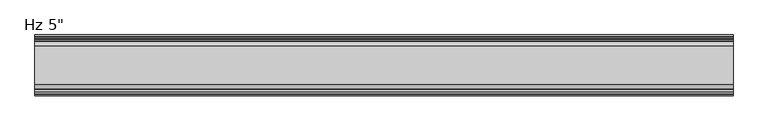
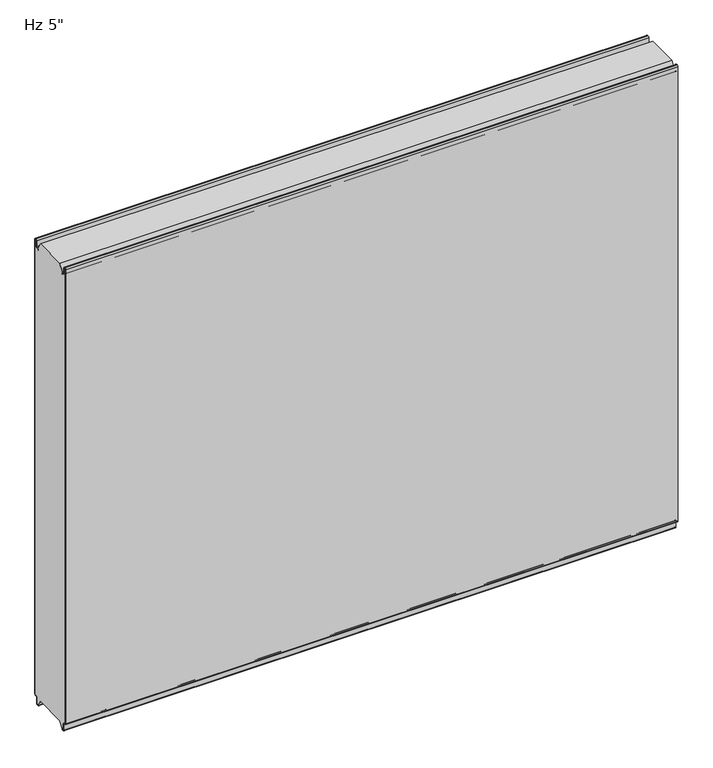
"""IFC4 building model written with IfcOpenShell, lengths in millimetres: plate geometry."""

from ifc_helpers import new_model, si_unit, frame, origin, place, context, project, spatial, polyline, circle_curve, source, transform, mapped, element, save
from ifc_brep_helpers import plane_surface, cylinder_surface, revolved_surface, advanced_brep


def plate_46142d81(model_context):
    return source(origin(), model_context, "Body", "AdvancedBrep", [
        advanced_brep(
        [(-730.0, -124.0227194, 3.8499499), (-730.0, -125.9999935, 5.8272239), (-730.0, -126.0, 1150.8100652), (-730.0, -124.0227315, 1152.7873337), (-730.0, -122.9806329, 1152.7873337), (-730.0, -121.0033643, 1150.8100652), (-730.0, -121.0033643, 1136.6216802), (-730.0, -118.4154878, 1134.0338036), (-730.0, -114.0950697, 1134.0338036), (-730.0, -113.5060762, 1133.4253365), (-730.0, -113.5060762, 1131.0482432), (-730.0, -112.5066023, 1131.0482432), (-730.0, -112.5066023, 1136.4905123), (-730.0, -103.2490865, 1152.525), (-730.0, -23.7509179, 1152.525), (-730.0, -14.4933977, 1136.4905123), (-730.0, -14.4933977, 1131.0482432), (-730.0, -13.4939238, 1131.0482432), (-730.0, -13.4939238, 1133.4253365), (-730.0, -12.9049303, 1134.0338036), (-730.0, -8.5845122, 1134.0338036), (-730.0, -5.9966357, 1136.6216802), (-730.0, -5.9966357, 1150.8100652), (-730.0, -4.0193671, 1152.7873337), (-730.0, -2.9772685, 1152.7873337), (-730.0, -1.0, 1150.8100652), (-730.0, -1.0, 5.8272239), (-730.0, -2.9772806, 3.8499499), (-730.0, -5.2691705, 3.8499499), (-730.0, -9.2464377, -0.1273173), (-730.0, -9.2464377, -15.7237417), (-730.0, -9.8343146, -16.3116186), (-730.0, -12.9058635, -16.3116186), (-730.0, -13.4937402, -15.723742), (-730.0, -13.4937402, -13.3687064), (-730.0, -14.4937402, -13.3687064), (-730.0, -14.4937402, -15.6582851), (-730.0, -23.7509135, 0.0), (-730.0, -103.2490865, 0.0), (-730.0, -112.5062598, -15.6582851), (-730.0, -112.5062598, -13.3687064), (-730.0, -113.5062598, -13.3687064), (-730.0, -113.5062598, -15.723742), (-730.0, -114.0941365, -16.3116186), (-730.0, -117.1656854, -16.3116186), (-730.0, -117.7535623, -15.7237417), (-730.0, -117.7535623, -0.1273173), (-730.0, -121.7308295, 3.8499499), (730.0, -124.0227194, 3.8499499), (730.0, -121.7308295, 3.8499499), (730.0, -117.7535623, -0.1273173), (730.0, -117.7535623, -15.7237417), (730.0, -117.1656854, -16.3116186), (730.0, -114.0941365, -16.3116186), (730.0, -113.5062598, -15.723742), (730.0, -113.5062598, -13.3687064), (730.0, -112.5062598, -13.3687064), (730.0, -112.5062598, -15.6582851), (730.0, -103.2490865, 0.0), (730.0, -23.7509179, 0.0), (730.0, -14.4937402, -15.6582851), (730.0, -14.4937402, -13.3687064), (730.0, -13.4937402, -13.3687064), (730.0, -13.4937402, -15.723742), (730.0, -12.9058635, -16.3116186), (730.0, -9.8343146, -16.3116186), (730.0, -9.2464377, -15.7237417), (730.0, -9.2464377, -0.1273173), (730.0, -5.2691705, 3.8499499), (730.0, -2.9772806, 3.8499499), (730.0, -1.0000065, 5.8272239), (730.0, -1.0, 1150.8100652), (730.0, -2.9772685, 1152.7873337), (730.0, -4.0193671, 1152.7873337), (730.0, -5.9966357, 1150.8100652), (730.0, -5.9966357, 1136.6216802), (730.0, -8.5845122, 1134.0338036), (730.0, -12.9049303, 1134.0338036), (730.0, -13.4939238, 1133.4253365), (730.0, -13.4939238, 1131.0482432), (730.0, -14.4933977, 1131.0482432), (730.0, -14.4933977, 1136.4905123), (730.0, -23.7509135, 1152.525), (730.0, -103.2490865, 1152.525), (730.0, -112.5066023, 1136.4905123), (730.0, -112.5066023, 1131.0482432), (730.0, -113.5060762, 1131.0482432), (730.0, -113.5060762, 1133.4253365), (730.0, -114.0950697, 1134.0338036), (730.0, -118.4154878, 1134.0338036), (730.0, -121.0033643, 1136.6216802), (730.0, -121.0033643, 1150.8100652), (730.0, -122.9806329, 1152.7873337), (730.0, -124.0227315, 1152.7873337), (730.0, -126.0, 1150.8100652), (730.0, -126.0, 5.8272239)],
        [
            (0, 1, circle_curve(frame((-730.0, -124.0227194, 5.8272239), z_axis=(-1.0, 0.0, 0.0), x_axis=(0.0, 0.0, -1.0)), 1.977274)),
            (1, 2),
            (2, 3, circle_curve(frame((-730.0, -124.0227315, 1150.8100652), z_axis=(-1.0, 0.0, 0.0), x_axis=(0.0, 0.0, -1.0)), 1.9772685)),
            (3, 4),
            (4, 5, circle_curve(frame((-730.0, -122.9806329, 1150.8100652), z_axis=(-1.0, 0.0, 0.0), x_axis=(0.0, 0.0, -1.0)), 1.9772685)),
            (5, 6),
            (6, 7, circle_curve(frame((-730.0, -118.4154878, 1136.6216802), z_axis=(1.0, 0.0, 0.0), x_axis=(0.0, 0.0, -1.0)), 2.5878765)),
            (7, 8),
            (8, 9, circle_curve(frame((-730.0, -114.0950697, 1133.4444985), z_axis=(-1.0, 0.0, 0.0), x_axis=(0.0, 0.0, -1.0)), 0.5893051)),
            (9, 10),
            (10, 11),
            (11, 12),
            (12, 13),
            (13, 14),
            (14, 15),
            (15, 16),
            (16, 17),
            (17, 18),
            (18, 19, circle_curve(frame((-730.0, -12.9049303, 1133.4444985), z_axis=(-1.0, 0.0, 0.0), x_axis=(0.0, 1.0, 0.0)), 0.5893051)),
            (19, 20),
            (20, 21, circle_curve(frame((-730.0, -8.5845122, 1136.6216802), z_axis=(1.0, 0.0, 0.0), x_axis=(0.0, 1.0, 0.0)), 2.5878765)),
            (21, 22),
            (22, 23, circle_curve(frame((-730.0, -4.0193671, 1150.8100652), z_axis=(-1.0, 0.0, 0.0), x_axis=(0.0, 1.0, 0.0)), 1.9772685)),
            (23, 24),
            (24, 25, circle_curve(frame((-730.0, -2.9772685, 1150.8100652), z_axis=(-1.0, 0.0, 0.0), x_axis=(0.0, 1.0, 0.0)), 1.9772685)),
            (25, 26),
            (26, 27, circle_curve(frame((-730.0, -2.9772806, 5.8272239), z_axis=(-1.0, 0.0, 0.0), x_axis=(0.0, 1.0, 0.0)), 1.977274)),
            (27, 28),
            (28, 29, circle_curve(frame((-730.0, -5.2691705, -0.1273173), z_axis=(1.0, 0.0, 0.0), x_axis=(0.0, 1.0, 0.0)), 3.9772671)),
            (29, 30),
            (30, 31, circle_curve(frame((-730.0, -9.8343146, -15.7237417), z_axis=(-1.0, 0.0, 0.0), x_axis=(0.0, 1.0, 0.0)), 0.5878769)),
            (31, 32),
            (32, 33, circle_curve(frame((-730.0, -12.9058635, -15.723742), z_axis=(-1.0, 0.0, 0.0), x_axis=(0.0, 1.0, 0.0)), 0.5878766)),
            (33, 34),
            (34, 35),
            (35, 36),
            (36, 37),
            (37, 38),
            (38, 39),
            (39, 40),
            (40, 41),
            (41, 42),
            (42, 43, circle_curve(frame((-730.0, -114.0941365, -15.723742), z_axis=(-1.0, 0.0, 0.0), x_axis=(0.0, 0.0, -1.0)), 0.5878766)),
            (43, 44),
            (44, 45, circle_curve(frame((-730.0, -117.1656854, -15.7237417), z_axis=(-1.0, 0.0, 0.0), x_axis=(0.0, 0.0, -1.0)), 0.5878769)),
            (45, 46),
            (46, 47, circle_curve(frame((-730.0, -121.7308295, -0.1273173), z_axis=(1.0, 0.0, 0.0), x_axis=(0.0, 0.0, -1.0)), 3.9772671)),
            (47, 0),
            (48, 49),
            (49, 50, circle_curve(frame((730.0, -121.7308295, -0.1273173), z_axis=(-1.0, 0.0, 0.0), x_axis=(0.0, 0.0, -1.0)), 3.9772671)),
            (50, 51),
            (51, 52, circle_curve(frame((730.0, -117.1656854, -15.7237417), z_axis=(1.0, 0.0, 0.0), x_axis=(0.0, 0.0, -1.0)), 0.5878769)),
            (52, 53),
            (53, 54, circle_curve(frame((730.0, -114.0941365, -15.723742), z_axis=(1.0, 0.0, 0.0), x_axis=(0.0, 0.0, -1.0)), 0.5878766)),
            (54, 55),
            (55, 56),
            (56, 57),
            (57, 58),
            (58, 59),
            (59, 60),
            (60, 61),
            (61, 62),
            (62, 63),
            (63, 64, circle_curve(frame((730.0, -12.9058635, -15.723742), z_axis=(1.0, 0.0, 0.0), x_axis=(0.0, 1.0, 0.0)), 0.5878766)),
            (64, 65),
            (65, 66, circle_curve(frame((730.0, -9.8343146, -15.7237417), z_axis=(1.0, 0.0, 0.0), x_axis=(0.0, 1.0, 0.0)), 0.5878769)),
            (66, 67),
            (67, 68, circle_curve(frame((730.0, -5.2691705, -0.1273173), z_axis=(-1.0, 0.0, 0.0), x_axis=(0.0, 1.0, 0.0)), 3.9772671)),
            (68, 69),
            (69, 70, circle_curve(frame((730.0, -2.9772806, 5.8272239), z_axis=(1.0, 0.0, 0.0), x_axis=(0.0, 1.0, 0.0)), 1.977274)),
            (70, 71),
            (71, 72, circle_curve(frame((730.0, -2.9772685, 1150.8100652), z_axis=(1.0, 0.0, 0.0), x_axis=(0.0, 1.0, 0.0)), 1.9772685)),
            (72, 73),
            (73, 74, circle_curve(frame((730.0, -4.0193671, 1150.8100652), z_axis=(1.0, 0.0, 0.0), x_axis=(0.0, 1.0, 0.0)), 1.9772685)),
            (74, 75),
            (75, 76, circle_curve(frame((730.0, -8.5845122, 1136.6216802), z_axis=(-1.0, 0.0, 0.0), x_axis=(0.0, 1.0, 0.0)), 2.5878765)),
            (76, 77),
            (77, 78, circle_curve(frame((730.0, -12.9049303, 1133.4444985), z_axis=(1.0, 0.0, 0.0), x_axis=(0.0, 1.0, 0.0)), 0.5893051)),
            (78, 79),
            (79, 80),
            (80, 81),
            (81, 82),
            (82, 83),
            (83, 84),
            (84, 85),
            (85, 86),
            (86, 87),
            (87, 88, circle_curve(frame((730.0, -114.0950697, 1133.4444985), z_axis=(1.0, 0.0, 0.0), x_axis=(0.0, 0.0, -1.0)), 0.5893051)),
            (88, 89),
            (89, 90, circle_curve(frame((730.0, -118.4154878, 1136.6216802), z_axis=(-1.0, 0.0, 0.0), x_axis=(0.0, 0.0, -1.0)), 2.5878765)),
            (90, 91),
            (91, 92, circle_curve(frame((730.0, -122.9806329, 1150.8100652), z_axis=(1.0, 0.0, 0.0), x_axis=(0.0, 0.0, -1.0)), 1.9772685)),
            (92, 93),
            (93, 94, circle_curve(frame((730.0, -124.0227315, 1150.8100652), z_axis=(1.0, 0.0, 0.0), x_axis=(0.0, 0.0, -1.0)), 1.9772685)),
            (94, 95),
            (95, 48, circle_curve(frame((730.0, -124.0227194, 5.8272239), z_axis=(1.0, 0.0, 0.0), x_axis=(0.0, 0.0, -1.0)), 1.977274)),
            (13, 83),
            (82, 14),
            (58, 38),
            (37, 59),
            (47, 49),
            (48, 0),
            (46, 50),
            (45, 51),
            (44, 52),
            (43, 53),
            (42, 54),
            (41, 55),
            (40, 56),
            (39, 57),
            (12, 84),
            (11, 85),
            (10, 86),
            (9, 87),
            (8, 88),
            (7, 89),
            (6, 90),
            (5, 91),
            (4, 92),
            (3, 93),
            (2, 94),
            (1, 95),
            (26, 70),
            (69, 27),
            (25, 71),
            (24, 72),
            (23, 73),
            (22, 74),
            (21, 75),
            (20, 76),
            (19, 77),
            (18, 78),
            (17, 79),
            (16, 80),
            (15, 81),
            (36, 60),
            (35, 61),
            (34, 62),
            (33, 63),
            (32, 64),
            (31, 65),
            (30, 66),
            (29, 67),
            (28, 68),
        ],
        [
            plane_surface(frame((-730.0, -126.0, 576.2625), z_axis=(-1.0, 0.0, 0.0), x_axis=(0.0, -1.0, 0.0))),
            plane_surface(frame((730.0, -126.0, 576.2625), z_axis=(1.0, 0.0, 0.0), x_axis=(0.0, -1.0, 0.0))),
            plane_surface(frame((-730.0, -103.2490865, 1152.525), z_axis=(0.0, 0.0, 1.0), x_axis=(-1.0, 0.0, 0.0))),
            plane_surface(frame((-730.0, -103.2490865, 0.0), z_axis=(0.0, 0.0, -1.0), x_axis=(1.0, 0.0, 0.0))),
            plane_surface(frame((-730.0, -124.0227194, 3.8499499), z_axis=(0.0, 0.0, -1.0), x_axis=(1.0, 0.0, 0.0))),
            revolved_surface(polyline([(730.0, -121.7308295, -4.1045844), (-730.0, -121.7308295, -4.1045844)]), (-730.0, -121.7308295, -0.1273173), (1.0, 0.0, 0.0)),
            plane_surface(frame((-730.0, -117.7535623, -0.1273173), z_axis=(0.0, -1.0, 0.0), x_axis=(1.0, 0.0, 0.0))),
            cylinder_surface(frame((-730.0, -117.1656854, -15.7237417), z_axis=(-1.0, 0.0, 0.0), x_axis=(0.0, 0.0, -1.0)), 0.5878769),
            plane_surface(frame((-730.0, -117.1656854, -16.3116186), z_axis=(0.0, 0.0, -1.0), x_axis=(1.0, 0.0, 0.0))),
            cylinder_surface(frame((-730.0, -114.0941365, -15.723742), z_axis=(-1.0, 0.0, 0.0), x_axis=(0.0, 0.0, -1.0)), 0.5878766),
            plane_surface(frame((-730.0, -113.5062598, -15.723742), z_axis=(0.0, 1.0, 0.0), x_axis=(1.0, 0.0, 0.0))),
            plane_surface(frame((-730.0, -113.5062598, -13.3687064), z_axis=(0.0, 0.0, -1.0), x_axis=(1.0, 0.0, 0.0))),
            plane_surface(frame((-730.0, -112.5062598, -13.3687064), z_axis=(0.0, -1.0, 0.0), x_axis=(1.0, 0.0, 0.0))),
            plane_surface(frame((-730.0, -112.5062598, -15.6582851), z_axis=(0.0, 0.8608169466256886, -0.5089147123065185), x_axis=(1.0, 0.0, 0.0))),
            plane_surface(frame((-730.0, -103.2490865, 1152.525), z_axis=(0.0, -0.8660254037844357, 0.5000000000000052), x_axis=(1.0, 0.0, 0.0))),
            plane_surface(frame((-730.0, -112.5066023, 1136.4905123), z_axis=(0.0, -1.0, 0.0), x_axis=(1.0, 0.0, 0.0))),
            plane_surface(frame((-730.0, -112.5066023, 1131.0482432), z_axis=(0.0, 0.0, 1.0), x_axis=(1.0, 0.0, 0.0))),
            plane_surface(frame((-730.0, -113.5060762, 1131.0482432), z_axis=(0.0, 1.0, 0.0), x_axis=(1.0, 0.0, 0.0))),
            cylinder_surface(frame((-730.0, -114.0950697, 1133.4444985), z_axis=(-1.0, 0.0, 0.0), x_axis=(0.0, 0.0, -1.0)), 0.5893051),
            plane_surface(frame((-730.0, -114.0950697, 1134.0338036), z_axis=(0.0, 0.0, 1.0), x_axis=(1.0, 0.0, 0.0))),
            revolved_surface(polyline([(730.0, -118.4154878, 1134.0338037), (-730.0, -118.4154878, 1134.0338037)]), (-730.0, -118.4154878, 1136.6216802), (1.0, 0.0, 0.0)),
            plane_surface(frame((-730.0, -121.0033643, 1136.6216802), z_axis=(0.0, 1.0, 0.0), x_axis=(1.0, 0.0, 0.0))),
            cylinder_surface(frame((-730.0, -122.9806329, 1150.8100652), z_axis=(-1.0, 0.0, 0.0), x_axis=(0.0, 0.0, -1.0)), 1.9772685),
            plane_surface(frame((-730.0, -122.9806329, 1152.7873337), z_axis=(0.0, 0.0, 1.0), x_axis=(1.0, 0.0, 0.0))),
            cylinder_surface(frame((-730.0, -124.0227315, 1150.8100652), z_axis=(-1.0, 0.0, 0.0), x_axis=(0.0, 0.0, -1.0)), 1.9772685),
            plane_surface(frame((-730.0, -126.0, 1150.8100652), z_axis=(0.0, -1.0, 0.0), x_axis=(1.0, 0.0, 0.0))),
            cylinder_surface(frame((-730.0, -124.0227194, 5.8272239), z_axis=(-1.0, 0.0, 0.0), x_axis=(0.0, 0.0, -1.0)), 1.977274),
            cylinder_surface(frame((-730.0, -2.9772806, 5.8272239), z_axis=(-1.0, 0.0, 0.0), x_axis=(0.0, 1.0, 0.0)), 1.977274),
            plane_surface(frame((-730.0, -1.0, 5.8272239), z_axis=(0.0, 1.0, 0.0), x_axis=(1.0, 0.0, 0.0))),
            cylinder_surface(frame((-730.0, -2.9772685, 1150.8100652), z_axis=(-1.0, 0.0, 0.0), x_axis=(0.0, 1.0, 0.0)), 1.9772685),
            plane_surface(frame((-730.0, -2.9772685, 1152.7873337), z_axis=(0.0, 0.0, 1.0), x_axis=(1.0, 0.0, 0.0))),
            cylinder_surface(frame((-730.0, -4.0193671, 1150.8100652), z_axis=(-1.0, 0.0, 0.0), x_axis=(0.0, 1.0, 0.0)), 1.9772685),
            plane_surface(frame((-730.0, -5.9966357, 1150.8100652), z_axis=(0.0, -1.0, 0.0), x_axis=(1.0, 0.0, 0.0))),
            revolved_surface(polyline([(730.0, -5.996635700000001, 1136.6216802), (-730.0, -5.996635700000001, 1136.6216802)]), (-730.0, -8.5845122, 1136.6216802), (1.0, 0.0, 0.0)),
            plane_surface(frame((-730.0, -8.5845122, 1134.0338036), z_axis=(0.0, 0.0, 1.0), x_axis=(1.0, 0.0, 0.0))),
            cylinder_surface(frame((-730.0, -12.9049303, 1133.4444985), z_axis=(-1.0, 0.0, 0.0), x_axis=(0.0, 1.0, 0.0)), 0.5893051),
            plane_surface(frame((-730.0, -13.4939238, 1133.4253365), z_axis=(0.0, -1.0, 0.0), x_axis=(1.0, 0.0, 0.0))),
            plane_surface(frame((-730.0, -13.4939238, 1131.0482432), z_axis=(0.0, 0.0, 1.0), x_axis=(1.0, 0.0, 0.0))),
            plane_surface(frame((-730.0, -14.4933977, 1131.0482432), z_axis=(0.0, 1.0, 0.0), x_axis=(1.0, 0.0, 0.0))),
            plane_surface(frame((-730.0, -14.4933977, 1136.4905123), z_axis=(0.0, 0.8660254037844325, 0.5000000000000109), x_axis=(1.0, 0.0, 0.0))),
            plane_surface(frame((-730.0, -23.7509135, 0.0), z_axis=(0.0, -0.8608169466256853, -0.5089147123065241), x_axis=(1.0, 0.0, 0.0))),
            plane_surface(frame((-730.0, -14.4937402, -15.6582851), z_axis=(0.0, 1.0, 0.0), x_axis=(1.0, 0.0, 0.0))),
            plane_surface(frame((-730.0, -14.4937402, -13.3687064), z_axis=(0.0, 0.0, -1.0), x_axis=(1.0, 0.0, 0.0))),
            plane_surface(frame((-730.0, -13.4937402, -13.3687064), z_axis=(0.0, -1.0, 0.0), x_axis=(1.0, 0.0, 0.0))),
            cylinder_surface(frame((-730.0, -12.9058635, -15.723742), z_axis=(-1.0, 0.0, 0.0), x_axis=(0.0, 1.0, 0.0)), 0.5878766),
            plane_surface(frame((-730.0, -12.9058635, -16.3116186), z_axis=(0.0, 0.0, -1.0), x_axis=(1.0, 0.0, 0.0))),
            cylinder_surface(frame((-730.0, -9.8343146, -15.7237417), z_axis=(-1.0, 0.0, 0.0), x_axis=(0.0, 1.0, 0.0)), 0.5878769),
            plane_surface(frame((-730.0, -9.2464377, -15.7237417), z_axis=(0.0, 1.0, 0.0), x_axis=(1.0, 0.0, 0.0))),
            revolved_surface(polyline([(730.0, -1.2919034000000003, -0.1273173), (-730.0, -1.2919034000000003, -0.1273173)]), (-730.0, -5.2691705, -0.1273173), (1.0, 0.0, 0.0)),
            plane_surface(frame((-730.0, -5.2691705, 3.8499499), z_axis=(0.0, 0.0, -1.0), x_axis=(1.0, 0.0, 0.0))),
        ],
        [
            (0, [[1, 2, 3, 4, 5, 6, 7, 8, 9, 10, 11, 12, 13, 14, 15, 16, 17, 18, 19, 20, 21, 22, 23, 24, 25, 26, 27, 28, 29, 30, 31, 32, 33, 34, 35, 36, 37, 38, 39, 40, 41, 42, 43, 44, 45, 46, 47, 48]]),
            (1, [[49, 50, 51, 52, 53, 54, 55, 56, 57, 58, 59, 60, 61, 62, 63, 64, 65, 66, 67, 68, 69, 70, 71, 72, 73, 74, 75, 76, 77, 78, 79, 80, 81, 82, 83, 84, 85, 86, 87, 88, 89, 90, 91, 92, 93, 94, 95, 96]]),
            (2, [[97, -83, 98, -14]]),
            (3, [[99, -38, 100, -59]]),
            (4, [[101, -49, 102, -48]]),
            (5, [[103, -50, -101, -47]]),
            (6, [[104, -51, -103, -46]]),
            (7, [[105, -52, -104, -45]]),
            (8, [[106, -53, -105, -44]]),
            (9, [[107, -54, -106, -43]]),
            (10, [[108, -55, -107, -42]]),
            (11, [[109, -56, -108, -41]]),
            (12, [[110, -57, -109, -40]]),
            (13, [[-99, -58, -110, -39]]),
            (14, [[111, -84, -97, -13]]),
            (15, [[112, -85, -111, -12]]),
            (16, [[113, -86, -112, -11]]),
            (17, [[114, -87, -113, -10]]),
            (18, [[115, -88, -114, -9]]),
            (19, [[116, -89, -115, -8]]),
            (20, [[117, -90, -116, -7]]),
            (21, [[118, -91, -117, -6]]),
            (22, [[119, -92, -118, -5]]),
            (23, [[120, -93, -119, -4]]),
            (24, [[121, -94, -120, -3]]),
            (25, [[122, -95, -121, -2]]),
            (26, [[-102, -96, -122, -1]]),
            (27, [[123, -70, 124, -27]]),
            (28, [[125, -71, -123, -26]]),
            (29, [[126, -72, -125, -25]]),
            (30, [[127, -73, -126, -24]]),
            (31, [[128, -74, -127, -23]]),
            (32, [[129, -75, -128, -22]]),
            (33, [[130, -76, -129, -21]]),
            (34, [[131, -77, -130, -20]]),
            (35, [[132, -78, -131, -19]]),
            (36, [[133, -79, -132, -18]]),
            (37, [[134, -80, -133, -17]]),
            (38, [[135, -81, -134, -16]]),
            (39, [[-98, -82, -135, -15]]),
            (40, [[136, -60, -100, -37]]),
            (41, [[137, -61, -136, -36]]),
            (42, [[138, -62, -137, -35]]),
            (43, [[139, -63, -138, -34]]),
            (44, [[140, -64, -139, -33]]),
            (45, [[141, -65, -140, -32]]),
            (46, [[142, -66, -141, -31]]),
            (47, [[143, -67, -142, -30]]),
            (48, [[144, -68, -143, -29]]),
            (49, [[-124, -69, -144, -28]]),
        ],
    ),
        advanced_brep(
        [(-730.0, -2.9776189, 3.8501063), (-730.0, -1.0007088, 5.8270163), (-730.0, -1.0007088, 1150.812837), (-730.0, -2.97659, 1152.7887182), (-730.0, -4.019022, 1152.7887182), (-730.0, -5.9969834, 1150.8107568), (-730.0, -5.9969834, 1136.6215971), (-730.0, -8.5846834, 1134.0338971), (-730.0, -12.9049158, 1134.0338971), (-730.0, -13.4939528, 1133.4253599), (-730.0, -13.4939528, 1131.0482432), (-730.0, -14.4933977, 1131.0482432), (-730.0, -14.4933977, 1133.3929042), (-730.0, -12.9049303, 1135.0338036), (-730.0, -8.5845122, 1135.0338036), (-730.0, -6.9966356, 1136.6216801), (-730.0, -6.9966356, 1150.8100652), (-730.0, -4.0193671, 1153.7873337), (-730.0, -2.9772685, 1153.7873337), (-730.0, 0.0, 1150.8100652), (-730.0, 0.0, 5.8272211), (-730.0, -2.977286, 2.8499526), (-730.0, -5.2691698, 2.8499526), (-730.0, -8.2464384, -0.1273159), (-730.0, -8.2464384, -15.7237419), (-730.0, -9.8343149, -17.3116185), (-730.0, -12.9058636, -17.3116185), (-730.0, -14.4937401, -15.7237419), (-730.0, -14.4937401, -13.3687064), (-730.0, -13.4937365, -13.3687064), (-730.0, -13.4937365, -15.7237374), (-730.0, -12.9058654, -16.3116086), (-730.0, -9.834334, -16.3116086), (-730.0, -9.2464768, -15.7237514), (-730.0, -9.2464768, -0.1272391), (-730.0, -5.2691315, 3.8501063), (730.0, -2.9776189, 3.8501063), (730.0, -5.2691315, 3.8501063), (730.0, -9.2464768, -0.1272391), (730.0, -9.2464768, -15.7237514), (730.0, -9.834334, -16.3116086), (730.0, -12.9058654, -16.3116086), (730.0, -13.4937365, -15.7237374), (730.0, -13.4937365, -13.3687064), (730.0, -14.4937401, -13.3687064), (730.0, -14.4937401, -15.7237419), (730.0, -12.9058636, -17.3116185), (730.0, -9.8343149, -17.3116185), (730.0, -8.2464384, -15.7237419), (730.0, -8.2464384, -0.1273159), (730.0, -5.2691698, 2.8499526), (730.0, -2.977286, 2.8499526), (730.0, -1.75e-05, 5.8272211), (730.0, 0.0, 1150.8100652), (730.0, -2.9772685, 1153.7873337), (730.0, -4.0193671, 1153.7873337), (730.0, -6.9966356, 1150.8100652), (730.0, -6.9966356, 1136.6216801), (730.0, -8.5845122, 1135.0338036), (730.0, -12.9049303, 1135.0338036), (730.0, -14.4933977, 1133.3929042), (730.0, -14.4933977, 1131.0482432), (730.0, -13.4939528, 1131.0482432), (730.0, -13.4939528, 1133.4253599), (730.0, -12.9049158, 1134.0338971), (730.0, -8.5846834, 1134.0338971), (730.0, -5.9969834, 1136.6215971), (730.0, -5.9969834, 1150.8107568), (730.0, -4.019022, 1152.7887182), (730.0, -2.97659, 1152.7887182), (730.0, -1.0007088, 1150.812837), (730.0, -1.0007088, 5.8270163)],
        [
            (0, 1, circle_curve(frame((-730.0, -2.9776189, 5.8270163), z_axis=(1.0, 0.0, 0.0), x_axis=(0.0, 1.0, 0.0)), 1.9769101)),
            (1, 2),
            (2, 3, circle_curve(frame((-730.0, -2.97659, 1150.812837), z_axis=(1.0, 0.0, 0.0), x_axis=(0.0, 1.0, 0.0)), 1.9758812)),
            (3, 4),
            (4, 5, circle_curve(frame((-730.0, -4.019022, 1150.8107568), z_axis=(1.0, 0.0, 0.0), x_axis=(0.0, 1.0, 0.0)), 1.9779614)),
            (5, 6),
            (6, 7, circle_curve(frame((-730.0, -8.5846834, 1136.6215971), z_axis=(-1.0, 0.0, 0.0), x_axis=(0.0, 1.0, 0.0)), 2.5877)),
            (7, 8),
            (8, 9, circle_curve(frame((-730.0, -12.9049158, 1133.4445477), z_axis=(1.0, 0.0, 0.0), x_axis=(0.0, 1.0, 0.0)), 0.5893495)),
            (9, 10),
            (10, 11),
            (11, 12),
            (12, 13, circle_curve(frame((-730.0, -12.9049303, 1133.4444985), z_axis=(-1.0, 0.0, 0.0), x_axis=(0.0, 1.0, 0.0)), 1.5893051)),
            (13, 14),
            (14, 15, circle_curve(frame((-730.0, -8.5845122, 1136.6216801), z_axis=(1.0, 0.0, 0.0), x_axis=(0.0, 1.0, 0.0)), 1.5878765)),
            (15, 16),
            (16, 17, circle_curve(frame((-730.0, -4.0193671, 1150.8100652), z_axis=(-1.0, 0.0, 0.0), x_axis=(0.0, 1.0, 0.0)), 2.9772685)),
            (17, 18),
            (18, 19, circle_curve(frame((-730.0, -2.9772685, 1150.8100652), z_axis=(-1.0, 0.0, 0.0), x_axis=(0.0, 1.0, 0.0)), 2.9772685)),
            (19, 20),
            (20, 21, circle_curve(frame((-730.0, -2.977286, 5.8272211), z_axis=(-1.0, 0.0, 0.0), x_axis=(0.0, 1.0, 0.0)), 2.9772685)),
            (21, 22),
            (22, 23, circle_curve(frame((-730.0, -5.2691698, -0.1273159), z_axis=(1.0, 0.0, 0.0), x_axis=(0.0, 1.0, 0.0)), 2.9772685)),
            (23, 24),
            (24, 25, circle_curve(frame((-730.0, -9.8343149, -15.7237419), z_axis=(-1.0, 0.0, 0.0), x_axis=(0.0, 1.0, 0.0)), 1.5878765)),
            (25, 26),
            (26, 27, circle_curve(frame((-730.0, -12.9058636, -15.7237419), z_axis=(-1.0, 0.0, 0.0), x_axis=(0.0, 1.0, 0.0)), 1.5878765)),
            (27, 28),
            (28, 29),
            (29, 30),
            (30, 31, circle_curve(frame((-730.0, -12.9058654, -15.7237374), z_axis=(1.0, 0.0, 0.0), x_axis=(0.0, 1.0, 0.0)), 0.5878711)),
            (31, 32),
            (32, 33, circle_curve(frame((-730.0, -9.834334, -15.7237514), z_axis=(1.0, 0.0, 0.0), x_axis=(0.0, 1.0, 0.0)), 0.5878572)),
            (33, 34),
            (34, 35, circle_curve(frame((-730.0, -5.2691315, -0.1272391), z_axis=(-1.0, 0.0, 0.0), x_axis=(0.0, 1.0, 0.0)), 3.9773454)),
            (35, 0),
            (36, 37),
            (37, 38, circle_curve(frame((730.0, -5.2691315, -0.1272391), z_axis=(1.0, 0.0, 0.0), x_axis=(0.0, 1.0, 0.0)), 3.9773454)),
            (38, 39),
            (39, 40, circle_curve(frame((730.0, -9.834334, -15.7237514), z_axis=(-1.0, 0.0, 0.0), x_axis=(0.0, 1.0, 0.0)), 0.5878572)),
            (40, 41),
            (41, 42, circle_curve(frame((730.0, -12.9058654, -15.7237374), z_axis=(-1.0, 0.0, 0.0), x_axis=(0.0, 1.0, 0.0)), 0.5878711)),
            (42, 43),
            (43, 44),
            (44, 45),
            (45, 46, circle_curve(frame((730.0, -12.9058636, -15.7237419), z_axis=(1.0, 0.0, 0.0), x_axis=(0.0, 1.0, 0.0)), 1.5878765)),
            (46, 47),
            (47, 48, circle_curve(frame((730.0, -9.8343149, -15.7237419), z_axis=(1.0, 0.0, 0.0), x_axis=(0.0, 1.0, 0.0)), 1.5878765)),
            (48, 49),
            (49, 50, circle_curve(frame((730.0, -5.2691698, -0.1273159), z_axis=(-1.0, 0.0, 0.0), x_axis=(0.0, 1.0, 0.0)), 2.9772685)),
            (50, 51),
            (51, 52, circle_curve(frame((730.0, -2.977286, 5.8272211), z_axis=(1.0, 0.0, 0.0), x_axis=(0.0, 1.0, 0.0)), 2.9772685)),
            (52, 53),
            (53, 54, circle_curve(frame((730.0, -2.9772685, 1150.8100652), z_axis=(1.0, 0.0, 0.0), x_axis=(0.0, 1.0, 0.0)), 2.9772685)),
            (54, 55),
            (55, 56, circle_curve(frame((730.0, -4.0193671, 1150.8100652), z_axis=(1.0, 0.0, 0.0), x_axis=(0.0, 1.0, 0.0)), 2.9772685)),
            (56, 57),
            (57, 58, circle_curve(frame((730.0, -8.5845122, 1136.6216801), z_axis=(-1.0, 0.0, 0.0), x_axis=(0.0, 1.0, 0.0)), 1.5878765)),
            (58, 59),
            (59, 60, circle_curve(frame((730.0, -12.9049303, 1133.4444985), z_axis=(1.0, 0.0, 0.0), x_axis=(0.0, 1.0, 0.0)), 1.5893051)),
            (60, 61),
            (61, 62),
            (62, 63),
            (63, 64, circle_curve(frame((730.0, -12.9049158, 1133.4445477), z_axis=(-1.0, 0.0, 0.0), x_axis=(0.0, 1.0, 0.0)), 0.5893495)),
            (64, 65),
            (65, 66, circle_curve(frame((730.0, -8.5846834, 1136.6215971), z_axis=(1.0, 0.0, 0.0), x_axis=(0.0, 1.0, 0.0)), 2.5877)),
            (66, 67),
            (67, 68, circle_curve(frame((730.0, -4.019022, 1150.8107568), z_axis=(-1.0, 0.0, 0.0), x_axis=(0.0, 1.0, 0.0)), 1.9779614)),
            (68, 69),
            (69, 70, circle_curve(frame((730.0, -2.97659, 1150.812837), z_axis=(-1.0, 0.0, 0.0), x_axis=(0.0, 1.0, 0.0)), 1.9758812)),
            (70, 71),
            (71, 36, circle_curve(frame((730.0, -2.9776189, 5.8270163), z_axis=(-1.0, 0.0, 0.0), x_axis=(0.0, 1.0, 0.0)), 1.9769101)),
            (35, 37),
            (36, 0),
            (34, 38),
            (33, 39),
            (32, 40),
            (31, 41),
            (30, 42),
            (29, 43),
            (28, 44),
            (27, 45),
            (26, 46),
            (25, 47),
            (24, 48),
            (23, 49),
            (22, 50),
            (21, 51),
            (20, 52),
            (19, 53),
            (18, 54),
            (17, 55),
            (16, 56),
            (15, 57),
            (14, 58),
            (13, 59),
            (12, 60),
            (11, 61),
            (10, 62),
            (9, 63),
            (8, 64),
            (7, 65),
            (6, 66),
            (5, 67),
            (4, 68),
            (3, 69),
            (2, 70),
            (1, 71),
        ],
        [
            plane_surface(frame((-730.0, 0.0, 576.2625), z_axis=(-1.0, 0.0, 0.0), x_axis=(0.0, 1.0, 0.0))),
            plane_surface(frame((730.0, 0.0, 576.2625), z_axis=(1.0, 0.0, 0.0), x_axis=(0.0, 1.0, 0.0))),
            plane_surface(frame((-730.0, -2.9776189, 3.8501063), z_axis=(0.0, 0.0, 1.0), x_axis=(1.0, 0.0, 0.0))),
            cylinder_surface(frame((-730.0, -5.2691315, -0.1272391), z_axis=(-1.0, 0.0, 0.0), x_axis=(0.0, 1.0, 0.0)), 3.9773454),
            plane_surface(frame((-730.0, -9.2464768, -0.1272391), z_axis=(0.0, -1.0, 0.0), x_axis=(1.0, 0.0, 0.0))),
            revolved_surface(polyline([(730.0, -9.2464768, -15.7237514), (-730.0, -9.2464768, -15.7237514)]), (-730.0, -9.834334, -15.7237514), (1.0, 0.0, 0.0)),
            plane_surface(frame((-730.0, -9.834334, -16.3116086), z_axis=(0.0, 0.0, 1.0), x_axis=(1.0, 0.0, 0.0))),
            revolved_surface(polyline([(730.0, -12.3179943, -15.7237374), (-730.0, -12.3179943, -15.7237374)]), (-730.0, -12.9058654, -15.7237374), (1.0, 0.0, 0.0)),
            plane_surface(frame((-730.0, -13.4937365, -15.7237374), z_axis=(0.0, 1.0, 0.0), x_axis=(1.0, 0.0, 0.0))),
            plane_surface(frame((-730.0, -13.4937365, -13.3687064), z_axis=(0.0, 0.0, 1.0), x_axis=(1.0, 0.0, 0.0))),
            plane_surface(frame((-730.0, -14.4937401, -13.3687064), z_axis=(0.0, -1.0, 0.0), x_axis=(1.0, 0.0, 0.0))),
            cylinder_surface(frame((-730.0, -12.9058636, -15.7237419), z_axis=(-1.0, 0.0, 0.0), x_axis=(0.0, 1.0, 0.0)), 1.5878765),
            plane_surface(frame((-730.0, -12.9058636, -17.3116185), z_axis=(0.0, 0.0, -1.0), x_axis=(1.0, 0.0, 0.0))),
            cylinder_surface(frame((-730.0, -9.8343149, -15.7237419), z_axis=(-1.0, 0.0, 0.0), x_axis=(0.0, 1.0, 0.0)), 1.5878765),
            plane_surface(frame((-730.0, -8.2464384, -15.7237419), z_axis=(0.0, 1.0, 0.0), x_axis=(1.0, 0.0, 0.0))),
            revolved_surface(polyline([(730.0, -2.2919013, -0.1273159), (-730.0, -2.2919013, -0.1273159)]), (-730.0, -5.2691698, -0.1273159), (1.0, 0.0, 0.0)),
            plane_surface(frame((-730.0, -5.2691698, 2.8499526), z_axis=(0.0, 0.0, -1.0), x_axis=(1.0, 0.0, 0.0))),
            cylinder_surface(frame((-730.0, -2.977286, 5.8272211), z_axis=(-1.0, 0.0, 0.0), x_axis=(0.0, 1.0, 0.0)), 2.9772685),
            plane_surface(frame((-730.0, 0.0, 5.8272211), z_axis=(0.0, 1.0, 0.0), x_axis=(1.0, 0.0, 0.0))),
            cylinder_surface(frame((-730.0, -2.9772685, 1150.8100652), z_axis=(-1.0, 0.0, 0.0), x_axis=(0.0, 1.0, 0.0)), 2.9772685),
            plane_surface(frame((-730.0, -2.9772685, 1153.7873337), z_axis=(0.0, 0.0, 1.0), x_axis=(1.0, 0.0, 0.0))),
            cylinder_surface(frame((-730.0, -4.0193671, 1150.8100652), z_axis=(-1.0, 0.0, 0.0), x_axis=(0.0, 1.0, 0.0)), 2.9772685),
            plane_surface(frame((-730.0, -6.9966356, 1150.8100652), z_axis=(0.0, -1.0, 0.0), x_axis=(1.0, 0.0, 0.0))),
            revolved_surface(polyline([(730.0, -6.996635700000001, 1136.6216801), (-730.0, -6.996635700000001, 1136.6216801)]), (-730.0, -8.5845122, 1136.6216801), (1.0, 0.0, 0.0)),
            plane_surface(frame((-730.0, -8.5845122, 1135.0338036), z_axis=(0.0, 0.0, 1.0), x_axis=(1.0, 0.0, 0.0))),
            cylinder_surface(frame((-730.0, -12.9049303, 1133.4444985), z_axis=(-1.0, 0.0, 0.0), x_axis=(0.0, 1.0, 0.0)), 1.5893051),
            plane_surface(frame((-730.0, -14.4933977, 1133.3929042), z_axis=(0.0, -1.0, 0.0), x_axis=(1.0, 0.0, 0.0))),
            plane_surface(frame((-730.0, -14.4933977, 1131.0482432), z_axis=(0.0, 0.0, -1.0), x_axis=(1.0, 0.0, 0.0))),
            plane_surface(frame((-730.0, -13.4939528, 1131.0482432), z_axis=(0.0, 1.0, 0.0), x_axis=(1.0, 0.0, 0.0))),
            revolved_surface(polyline([(730.0, -12.3155663, 1133.4445477), (-730.0, -12.3155663, 1133.4445477)]), (-730.0, -12.9049158, 1133.4445477), (1.0, 0.0, 0.0)),
            plane_surface(frame((-730.0, -12.9049158, 1134.0338971), z_axis=(0.0, 0.0, -1.0), x_axis=(1.0, 0.0, 0.0))),
            cylinder_surface(frame((-730.0, -8.5846834, 1136.6215971), z_axis=(-1.0, 0.0, 0.0), x_axis=(0.0, 1.0, 0.0)), 2.5877),
            plane_surface(frame((-730.0, -5.9969834, 1136.6215971), z_axis=(0.0, 1.0, 0.0), x_axis=(1.0, 0.0, 0.0))),
            revolved_surface(polyline([(730.0, -2.0410606, 1150.8107568), (-730.0, -2.0410606, 1150.8107568)]), (-730.0, -4.019022, 1150.8107568), (1.0, 0.0, 0.0)),
            plane_surface(frame((-730.0, -4.019022, 1152.7887182), z_axis=(0.0, 0.0, -1.0), x_axis=(1.0, 0.0, 0.0))),
            revolved_surface(polyline([(730.0, -1.0007088, 1150.812837), (-730.0, -1.0007088, 1150.812837)]), (-730.0, -2.97659, 1150.812837), (1.0, 0.0, 0.0)),
            plane_surface(frame((-730.0, -1.0007088, 1150.812837), z_axis=(0.0, -1.0, 0.0), x_axis=(1.0, 0.0, 0.0))),
            revolved_surface(polyline([(730.0, -1.0007088, 5.8270163), (-730.0, -1.0007088, 5.8270163)]), (-730.0, -2.9776189, 5.8270163), (1.0, 0.0, 0.0)),
        ],
        [
            (0, [[1, 2, 3, 4, 5, 6, 7, 8, 9, 10, 11, 12, 13, 14, 15, 16, 17, 18, 19, 20, 21, 22, 23, 24, 25, 26, 27, 28, 29, 30, 31, 32, 33, 34, 35, 36]]),
            (1, [[37, 38, 39, 40, 41, 42, 43, 44, 45, 46, 47, 48, 49, 50, 51, 52, 53, 54, 55, 56, 57, 58, 59, 60, 61, 62, 63, 64, 65, 66, 67, 68, 69, 70, 71, 72]]),
            (2, [[73, -37, 74, -36]]),
            (3, [[75, -38, -73, -35]]),
            (4, [[76, -39, -75, -34]]),
            (5, [[77, -40, -76, -33]]),
            (6, [[78, -41, -77, -32]]),
            (7, [[79, -42, -78, -31]]),
            (8, [[80, -43, -79, -30]]),
            (9, [[81, -44, -80, -29]]),
            (10, [[82, -45, -81, -28]]),
            (11, [[83, -46, -82, -27]]),
            (12, [[84, -47, -83, -26]]),
            (13, [[85, -48, -84, -25]]),
            (14, [[86, -49, -85, -24]]),
            (15, [[87, -50, -86, -23]]),
            (16, [[88, -51, -87, -22]]),
            (17, [[89, -52, -88, -21]]),
            (18, [[90, -53, -89, -20]]),
            (19, [[91, -54, -90, -19]]),
            (20, [[92, -55, -91, -18]]),
            (21, [[93, -56, -92, -17]]),
            (22, [[94, -57, -93, -16]]),
            (23, [[95, -58, -94, -15]]),
            (24, [[96, -59, -95, -14]]),
            (25, [[97, -60, -96, -13]]),
            (26, [[98, -61, -97, -12]]),
            (27, [[99, -62, -98, -11]]),
            (28, [[100, -63, -99, -10]]),
            (29, [[101, -64, -100, -9]]),
            (30, [[102, -65, -101, -8]]),
            (31, [[103, -66, -102, -7]]),
            (32, [[104, -67, -103, -6]]),
            (33, [[105, -68, -104, -5]]),
            (34, [[106, -69, -105, -4]]),
            (35, [[107, -70, -106, -3]]),
            (36, [[108, -71, -107, -2]]),
            (37, [[-74, -72, -108, -1]]),
        ],
    ),
        advanced_brep(
        [(-730.0, -124.0223811, 3.8501063), (-730.0, -121.7308685, 3.8501063), (-730.0, -117.7535232, -0.1272391), (-730.0, -117.7535232, -15.7237514), (-730.0, -117.165666, -16.3116086), (-730.0, -114.0941346, -16.3116086), (-730.0, -113.5062635, -15.7237374), (-730.0, -113.5062635, -13.3687064), (-730.0, -112.5062599, -13.3687064), (-730.0, -112.5062599, -15.7237419), (-730.0, -114.0941364, -17.3116185), (-730.0, -117.1656851, -17.3116185), (-730.0, -118.7535616, -15.7237419), (-730.0, -118.7535616, -0.1273159), (-730.0, -121.7308302, 2.8499526), (-730.0, -124.022714, 2.8499526), (-730.0, -126.9999825, 5.8272211), (-730.0, -127.0, 1150.8100652), (-730.0, -124.0227315, 1153.7873337), (-730.0, -122.9806329, 1153.7873337), (-730.0, -120.0033644, 1150.8100652), (-730.0, -120.0033644, 1136.6216801), (-730.0, -118.4154878, 1135.0338036), (-730.0, -114.0950697, 1135.0338036), (-730.0, -112.5066023, 1133.3929042), (-730.0, -112.5066023, 1131.0482432), (-730.0, -113.5060472, 1131.0482432), (-730.0, -113.5060472, 1133.4253599), (-730.0, -114.0950842, 1134.0338971), (-730.0, -118.4153166, 1134.0338971), (-730.0, -121.0030166, 1136.6215971), (-730.0, -121.0030166, 1150.8107568), (-730.0, -122.980978, 1152.7887182), (-730.0, -124.02341, 1152.7887182), (-730.0, -125.9992912, 1150.812837), (-730.0, -125.9992912, 5.8270163), (730.0, -124.0223811, 3.8501063), (730.0, -125.9992912, 5.8270163), (730.0, -125.9992912, 1150.812837), (730.0, -124.02341, 1152.7887182), (730.0, -122.980978, 1152.7887182), (730.0, -121.0030166, 1150.8107568), (730.0, -121.0030166, 1136.6215971), (730.0, -118.4153166, 1134.0338971), (730.0, -114.0950842, 1134.0338971), (730.0, -113.5060472, 1133.4253599), (730.0, -113.5060472, 1131.0482432), (730.0, -112.5066023, 1131.0482432), (730.0, -112.5066023, 1133.3929042), (730.0, -114.0950697, 1135.0338036), (730.0, -118.4154878, 1135.0338036), (730.0, -120.0033644, 1136.6216801), (730.0, -120.0033644, 1150.8100652), (730.0, -122.9806329, 1153.7873337), (730.0, -124.0227315, 1153.7873337), (730.0, -127.0, 1150.8100652), (730.0, -127.0, 5.8272211), (730.0, -124.022714, 2.8499526), (730.0, -121.7308302, 2.8499526), (730.0, -118.7535616, -0.1273159), (730.0, -118.7535616, -15.7237419), (730.0, -117.1656851, -17.3116185), (730.0, -114.0941364, -17.3116185), (730.0, -112.5062599, -15.7237419), (730.0, -112.5062599, -13.3687064), (730.0, -113.5062635, -13.3687064), (730.0, -113.5062635, -15.7237374), (730.0, -114.0941346, -16.3116086), (730.0, -117.165666, -16.3116086), (730.0, -117.7535232, -15.7237514), (730.0, -117.7535232, -0.1272391), (730.0, -121.7308685, 3.8501063)],
        [
            (0, 1),
            (1, 2, circle_curve(frame((-730.0, -121.7308685, -0.1272391), z_axis=(-1.0, 0.0, 0.0), x_axis=(0.0, 0.0, -1.0)), 3.9773454)),
            (2, 3),
            (3, 4, circle_curve(frame((-730.0, -117.165666, -15.7237514), z_axis=(1.0, 0.0, 0.0), x_axis=(0.0, 0.0, -1.0)), 0.5878572)),
            (4, 5),
            (5, 6, circle_curve(frame((-730.0, -114.0941346, -15.7237374), z_axis=(1.0, 0.0, 0.0), x_axis=(0.0, 0.0, -1.0)), 0.5878711)),
            (6, 7),
            (7, 8),
            (8, 9),
            (9, 10, circle_curve(frame((-730.0, -114.0941364, -15.7237419), z_axis=(-1.0, 0.0, 0.0), x_axis=(0.0, 0.0, -1.0)), 1.5878765)),
            (10, 11),
            (11, 12, circle_curve(frame((-730.0, -117.1656851, -15.7237419), z_axis=(-1.0, 0.0, 0.0), x_axis=(0.0, 0.0, -1.0)), 1.5878765)),
            (12, 13),
            (13, 14, circle_curve(frame((-730.0, -121.7308302, -0.1273159), z_axis=(1.0, 0.0, 0.0), x_axis=(0.0, 0.0, -1.0)), 2.9772685)),
            (14, 15),
            (15, 16, circle_curve(frame((-730.0, -124.022714, 5.8272211), z_axis=(-1.0, 0.0, 0.0), x_axis=(0.0, 0.0, -1.0)), 2.9772685)),
            (16, 17),
            (17, 18, circle_curve(frame((-730.0, -124.0227315, 1150.8100652), z_axis=(-1.0, 0.0, 0.0), x_axis=(0.0, 0.0, -1.0)), 2.9772685)),
            (18, 19),
            (19, 20, circle_curve(frame((-730.0, -122.9806329, 1150.8100652), z_axis=(-1.0, 0.0, 0.0), x_axis=(0.0, 0.0, -1.0)), 2.9772685)),
            (20, 21),
            (21, 22, circle_curve(frame((-730.0, -118.4154878, 1136.6216801), z_axis=(1.0, 0.0, 0.0), x_axis=(0.0, 0.0, -1.0)), 1.5878765)),
            (22, 23),
            (23, 24, circle_curve(frame((-730.0, -114.0950697, 1133.4444985), z_axis=(-1.0, 0.0, 0.0), x_axis=(0.0, 0.0, -1.0)), 1.5893051)),
            (24, 25),
            (25, 26),
            (26, 27),
            (27, 28, circle_curve(frame((-730.0, -114.0950842, 1133.4445477), z_axis=(1.0, 0.0, 0.0), x_axis=(0.0, 0.0, -1.0)), 0.5893495)),
            (28, 29),
            (29, 30, circle_curve(frame((-730.0, -118.4153166, 1136.6215971), z_axis=(-1.0, 0.0, 0.0), x_axis=(0.0, 0.0, -1.0)), 2.5877)),
            (30, 31),
            (31, 32, circle_curve(frame((-730.0, -122.980978, 1150.8107568), z_axis=(1.0, 0.0, 0.0), x_axis=(0.0, 0.0, -1.0)), 1.9779614)),
            (32, 33),
            (33, 34, circle_curve(frame((-730.0, -124.02341, 1150.812837), z_axis=(1.0, 0.0, 0.0), x_axis=(0.0, 0.0, -1.0)), 1.9758812)),
            (34, 35),
            (35, 0, circle_curve(frame((-730.0, -124.0223811, 5.8270163), z_axis=(1.0, 0.0, 0.0), x_axis=(0.0, 0.0, -1.0)), 1.9769101)),
            (36, 37, circle_curve(frame((730.0, -124.0223811, 5.8270163), z_axis=(-1.0, 0.0, 0.0), x_axis=(0.0, 0.0, -1.0)), 1.9769101)),
            (37, 38),
            (38, 39, circle_curve(frame((730.0, -124.02341, 1150.812837), z_axis=(-1.0, 0.0, 0.0), x_axis=(0.0, 0.0, -1.0)), 1.9758812)),
            (39, 40),
            (40, 41, circle_curve(frame((730.0, -122.980978, 1150.8107568), z_axis=(-1.0, 0.0, 0.0), x_axis=(0.0, 0.0, -1.0)), 1.9779614)),
            (41, 42),
            (42, 43, circle_curve(frame((730.0, -118.4153166, 1136.6215971), z_axis=(1.0, 0.0, 0.0), x_axis=(0.0, 0.0, -1.0)), 2.5877)),
            (43, 44),
            (44, 45, circle_curve(frame((730.0, -114.0950842, 1133.4445477), z_axis=(-1.0, 0.0, 0.0), x_axis=(0.0, 0.0, -1.0)), 0.5893495)),
            (45, 46),
            (46, 47),
            (47, 48),
            (48, 49, circle_curve(frame((730.0, -114.0950697, 1133.4444985), z_axis=(1.0, 0.0, 0.0), x_axis=(0.0, 0.0, -1.0)), 1.5893051)),
            (49, 50),
            (50, 51, circle_curve(frame((730.0, -118.4154878, 1136.6216801), z_axis=(-1.0, 0.0, 0.0), x_axis=(0.0, 0.0, -1.0)), 1.5878765)),
            (51, 52),
            (52, 53, circle_curve(frame((730.0, -122.9806329, 1150.8100652), z_axis=(1.0, 0.0, 0.0), x_axis=(0.0, 0.0, -1.0)), 2.9772685)),
            (53, 54),
            (54, 55, circle_curve(frame((730.0, -124.0227315, 1150.8100652), z_axis=(1.0, 0.0, 0.0), x_axis=(0.0, 0.0, -1.0)), 2.9772685)),
            (55, 56),
            (56, 57, circle_curve(frame((730.0, -124.022714, 5.8272211), z_axis=(1.0, 0.0, 0.0), x_axis=(0.0, 0.0, -1.0)), 2.9772685)),
            (57, 58),
            (58, 59, circle_curve(frame((730.0, -121.7308302, -0.1273159), z_axis=(-1.0, 0.0, 0.0), x_axis=(0.0, 0.0, -1.0)), 2.9772685)),
            (59, 60),
            (60, 61, circle_curve(frame((730.0, -117.1656851, -15.7237419), z_axis=(1.0, 0.0, 0.0), x_axis=(0.0, 0.0, -1.0)), 1.5878765)),
            (61, 62),
            (62, 63, circle_curve(frame((730.0, -114.0941364, -15.7237419), z_axis=(1.0, 0.0, 0.0), x_axis=(0.0, 0.0, -1.0)), 1.5878765)),
            (63, 64),
            (64, 65),
            (65, 66),
            (66, 67, circle_curve(frame((730.0, -114.0941346, -15.7237374), z_axis=(-1.0, 0.0, 0.0), x_axis=(0.0, 0.0, -1.0)), 0.5878711)),
            (67, 68),
            (68, 69, circle_curve(frame((730.0, -117.165666, -15.7237514), z_axis=(-1.0, 0.0, 0.0), x_axis=(0.0, 0.0, -1.0)), 0.5878572)),
            (69, 70),
            (70, 71, circle_curve(frame((730.0, -121.7308685, -0.1272391), z_axis=(1.0, 0.0, 0.0), x_axis=(0.0, 0.0, -1.0)), 3.9773454)),
            (71, 36),
            (35, 37),
            (36, 0),
            (34, 38),
            (33, 39),
            (32, 40),
            (31, 41),
            (30, 42),
            (29, 43),
            (28, 44),
            (27, 45),
            (26, 46),
            (25, 47),
            (24, 48),
            (23, 49),
            (22, 50),
            (21, 51),
            (20, 52),
            (19, 53),
            (18, 54),
            (17, 55),
            (16, 56),
            (15, 57),
            (14, 58),
            (13, 59),
            (12, 60),
            (11, 61),
            (10, 62),
            (9, 63),
            (8, 64),
            (7, 65),
            (6, 66),
            (5, 67),
            (4, 68),
            (3, 69),
            (2, 70),
            (1, 71),
        ],
        [
            plane_surface(frame((-730.0, -127.0, 576.2625), z_axis=(-1.0, 0.0, 0.0), x_axis=(0.0, -1.0, 0.0))),
            plane_surface(frame((730.0, -127.0, 576.2625), z_axis=(1.0, 0.0, 0.0), x_axis=(0.0, -1.0, 0.0))),
            revolved_surface(polyline([(730.0, -124.0223811, 3.8501062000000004), (-730.0, -124.0223811, 3.8501062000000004)]), (-730.0, -124.0223811, 5.8270163), (1.0, 0.0, 0.0)),
            plane_surface(frame((-730.0, -125.9992912, 5.8270163), z_axis=(0.0, 1.0, 0.0), x_axis=(1.0, 0.0, 0.0))),
            revolved_surface(polyline([(730.0, -124.02341, 1148.8369558), (-730.0, -124.02341, 1148.8369558)]), (-730.0, -124.02341, 1150.812837), (1.0, 0.0, 0.0)),
            plane_surface(frame((-730.0, -124.02341, 1152.7887182), z_axis=(0.0, 0.0, -1.0), x_axis=(1.0, 0.0, 0.0))),
            revolved_surface(polyline([(730.0, -122.980978, 1148.8327954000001), (-730.0, -122.980978, 1148.8327954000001)]), (-730.0, -122.980978, 1150.8107568), (1.0, 0.0, 0.0)),
            plane_surface(frame((-730.0, -121.0030166, 1150.8107568), z_axis=(0.0, -1.0, 0.0), x_axis=(1.0, 0.0, 0.0))),
            cylinder_surface(frame((-730.0, -118.4153166, 1136.6215971), z_axis=(-1.0, 0.0, 0.0), x_axis=(0.0, 0.0, -1.0)), 2.5877),
            plane_surface(frame((-730.0, -118.4153166, 1134.0338971), z_axis=(0.0, 0.0, -1.0), x_axis=(1.0, 0.0, 0.0))),
            revolved_surface(polyline([(730.0, -114.0950842, 1132.8551982), (-730.0, -114.0950842, 1132.8551982)]), (-730.0, -114.0950842, 1133.4445477), (1.0, 0.0, 0.0)),
            plane_surface(frame((-730.0, -113.5060472, 1133.4253599), z_axis=(0.0, -1.0, 0.0), x_axis=(1.0, 0.0, 0.0))),
            plane_surface(frame((-730.0, -113.5060472, 1131.0482432), z_axis=(0.0, 0.0, -1.0), x_axis=(1.0, 0.0, 0.0))),
            plane_surface(frame((-730.0, -112.5066023, 1131.0482432), z_axis=(0.0, 1.0, 0.0), x_axis=(1.0, 0.0, 0.0))),
            cylinder_surface(frame((-730.0, -114.0950697, 1133.4444985), z_axis=(-1.0, 0.0, 0.0), x_axis=(0.0, 0.0, -1.0)), 1.5893051),
            plane_surface(frame((-730.0, -114.0950697, 1135.0338036), z_axis=(0.0, 0.0, 1.0), x_axis=(1.0, 0.0, 0.0))),
            revolved_surface(polyline([(730.0, -118.4154878, 1135.0338036), (-730.0, -118.4154878, 1135.0338036)]), (-730.0, -118.4154878, 1136.6216801), (1.0, 0.0, 0.0)),
            plane_surface(frame((-730.0, -120.0033644, 1136.6216801), z_axis=(0.0, 1.0, 0.0), x_axis=(1.0, 0.0, 0.0))),
            cylinder_surface(frame((-730.0, -122.9806329, 1150.8100652), z_axis=(-1.0, 0.0, 0.0), x_axis=(0.0, 0.0, -1.0)), 2.9772685),
            plane_surface(frame((-730.0, -122.9806329, 1153.7873337), z_axis=(0.0, 0.0, 1.0), x_axis=(1.0, 0.0, 0.0))),
            cylinder_surface(frame((-730.0, -124.0227315, 1150.8100652), z_axis=(-1.0, 0.0, 0.0), x_axis=(0.0, 0.0, -1.0)), 2.9772685),
            plane_surface(frame((-730.0, -127.0, 1150.8100652), z_axis=(0.0, -1.0, 0.0), x_axis=(1.0, 0.0, 0.0))),
            cylinder_surface(frame((-730.0, -124.022714, 5.8272211), z_axis=(-1.0, 0.0, 0.0), x_axis=(0.0, 0.0, -1.0)), 2.9772685),
            plane_surface(frame((-730.0, -124.022714, 2.8499526), z_axis=(0.0, 0.0, -1.0), x_axis=(1.0, 0.0, 0.0))),
            revolved_surface(polyline([(730.0, -121.7308302, -3.1045844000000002), (-730.0, -121.7308302, -3.1045844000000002)]), (-730.0, -121.7308302, -0.1273159), (1.0, 0.0, 0.0)),
            plane_surface(frame((-730.0, -118.7535616, -0.1273159), z_axis=(0.0, -1.0, 0.0), x_axis=(1.0, 0.0, 0.0))),
            cylinder_surface(frame((-730.0, -117.1656851, -15.7237419), z_axis=(-1.0, 0.0, 0.0), x_axis=(0.0, 0.0, -1.0)), 1.5878765),
            plane_surface(frame((-730.0, -117.1656851, -17.3116185), z_axis=(0.0, 0.0, -1.0), x_axis=(1.0, 0.0, 0.0))),
            cylinder_surface(frame((-730.0, -114.0941364, -15.7237419), z_axis=(-1.0, 0.0, 0.0), x_axis=(0.0, 0.0, -1.0)), 1.5878765),
            plane_surface(frame((-730.0, -112.5062599, -15.7237419), z_axis=(0.0, 1.0, 0.0), x_axis=(1.0, 0.0, 0.0))),
            plane_surface(frame((-730.0, -112.5062599, -13.3687064), z_axis=(0.0, 0.0, 1.0), x_axis=(1.0, 0.0, 0.0))),
            plane_surface(frame((-730.0, -113.5062635, -13.3687064), z_axis=(0.0, -1.0, 0.0), x_axis=(1.0, 0.0, 0.0))),
            revolved_surface(polyline([(730.0, -114.0941346, -16.3116085), (-730.0, -114.0941346, -16.3116085)]), (-730.0, -114.0941346, -15.7237374), (1.0, 0.0, 0.0)),
            plane_surface(frame((-730.0, -114.0941346, -16.3116086), z_axis=(0.0, 0.0, 1.0), x_axis=(1.0, 0.0, 0.0))),
            revolved_surface(polyline([(730.0, -117.165666, -16.3116086), (-730.0, -117.165666, -16.3116086)]), (-730.0, -117.165666, -15.7237514), (1.0, 0.0, 0.0)),
            plane_surface(frame((-730.0, -117.7535232, -15.7237514), z_axis=(0.0, 1.0, 0.0), x_axis=(1.0, 0.0, 0.0))),
            cylinder_surface(frame((-730.0, -121.7308685, -0.1272391), z_axis=(-1.0, 0.0, 0.0), x_axis=(0.0, 0.0, -1.0)), 3.9773454),
            plane_surface(frame((-730.0, -121.7308685, 3.8501063), z_axis=(0.0, 0.0, 1.0), x_axis=(1.0, 0.0, 0.0))),
        ],
        [
            (0, [[1, 2, 3, 4, 5, 6, 7, 8, 9, 10, 11, 12, 13, 14, 15, 16, 17, 18, 19, 20, 21, 22, 23, 24, 25, 26, 27, 28, 29, 30, 31, 32, 33, 34, 35, 36]]),
            (1, [[37, 38, 39, 40, 41, 42, 43, 44, 45, 46, 47, 48, 49, 50, 51, 52, 53, 54, 55, 56, 57, 58, 59, 60, 61, 62, 63, 64, 65, 66, 67, 68, 69, 70, 71, 72]]),
            (2, [[73, -37, 74, -36]]),
            (3, [[75, -38, -73, -35]]),
            (4, [[76, -39, -75, -34]]),
            (5, [[77, -40, -76, -33]]),
            (6, [[78, -41, -77, -32]]),
            (7, [[79, -42, -78, -31]]),
            (8, [[80, -43, -79, -30]]),
            (9, [[81, -44, -80, -29]]),
            (10, [[82, -45, -81, -28]]),
            (11, [[83, -46, -82, -27]]),
            (12, [[84, -47, -83, -26]]),
            (13, [[85, -48, -84, -25]]),
            (14, [[86, -49, -85, -24]]),
            (15, [[87, -50, -86, -23]]),
            (16, [[88, -51, -87, -22]]),
            (17, [[89, -52, -88, -21]]),
            (18, [[90, -53, -89, -20]]),
            (19, [[91, -54, -90, -19]]),
            (20, [[92, -55, -91, -18]]),
            (21, [[93, -56, -92, -17]]),
            (22, [[94, -57, -93, -16]]),
            (23, [[95, -58, -94, -15]]),
            (24, [[96, -59, -95, -14]]),
            (25, [[97, -60, -96, -13]]),
            (26, [[98, -61, -97, -12]]),
            (27, [[99, -62, -98, -11]]),
            (28, [[100, -63, -99, -10]]),
            (29, [[101, -64, -100, -9]]),
            (30, [[102, -65, -101, -8]]),
            (31, [[103, -66, -102, -7]]),
            (32, [[104, -67, -103, -6]]),
            (33, [[105, -68, -104, -5]]),
            (34, [[106, -69, -105, -4]]),
            (35, [[107, -70, -106, -3]]),
            (36, [[108, -71, -107, -2]]),
            (37, [[-74, -72, -108, -1]]),
        ],
    ),
    ])


if __name__ == "__main__":
    model = new_model("IFC4")
    model_context = context("Model", 3, world=origin())
    ifc_project = project(units=[si_unit("LENGTHUNIT", "METRE", prefix="MILLI")], contexts=[model_context])
    site = spatial("IfcSite", under=ifc_project)
    building = spatial("IfcBuilding", under=site)
    placement = place(None, origin())
    plate_shape = plate_46142d81(model_context)
    element("IfcPlate", 1, ObjectType="KIP-SLI-FLI-R19-CP-Hz-FL_FL : Hz 5\"", at=placement, inside=building, context=model_context, shape_type="MappedRepresentation", body=[
        mapped(plate_shape, transform((0.0, 0.0, 0.0), x_axis=(1.0, 0.0, 0.0), y_axis=(0.0, 1.0, 0.0), z_axis=(0.0, 0.0, 1.0))),
    ])
    save(model, "model.ifc")
